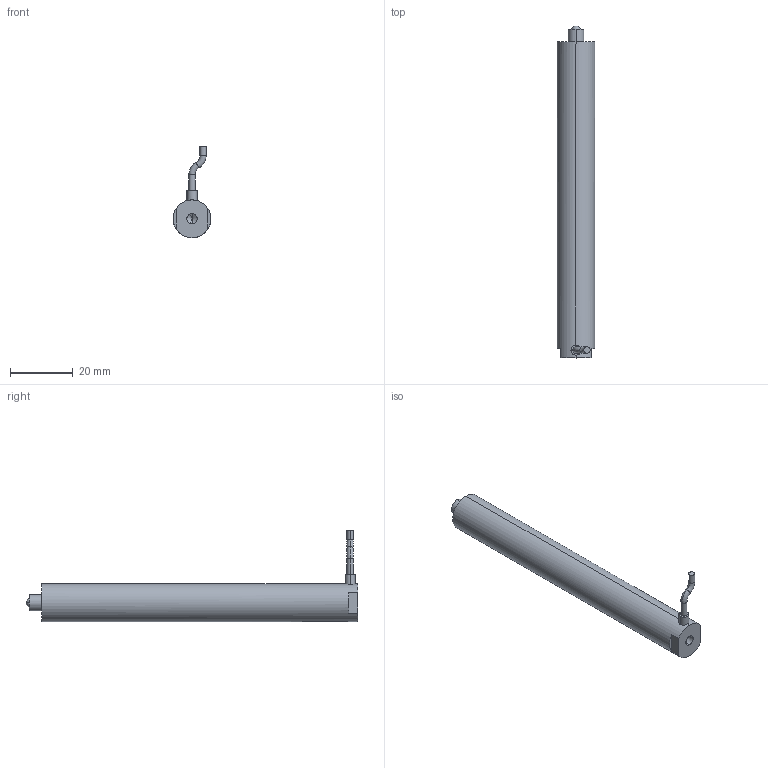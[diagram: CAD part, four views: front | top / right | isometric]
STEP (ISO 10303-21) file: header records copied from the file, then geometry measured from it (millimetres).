
FILE_DESCRIPTION (( 'STEP AP203' ), '1' );
FILE_NAME ('球头式100VS12.STEP', '2020-08-19T06:05:10', ( 'User' ), ( 'china' ), 'SwSTEP 2.0', 'SolidWorks 2016', '' );
FILE_SCHEMA (( 'CONFIG_CONTROL_DESIGN' ));
Products named in the file (1): ⑩芛宒100VS12
Bounding box: 12 x 105.6 x 29.08 mm (x, y, z)
Volume: 11450.7 mm3; surface area: 4278.6 mm2
Topology: 1 solids, 1 shells, 927 faces, 2487 edges, 1654 vertices
Faces by surface type: bspline 509, plane 308, cylinder 102, torus 4, sphere 2, cone 2
Entity records: 43757 total; most frequent: CARTESIAN_POINT 25031, ORIENTED_EDGE 4970, EDGE_CURVE 2485, DIRECTION 1922, B_SPLINE_CURVE_WITH_KNOTS 1671, VERTEX_POINT 1654, EDGE_LOOP 1021, ADVANCED_FACE 927
